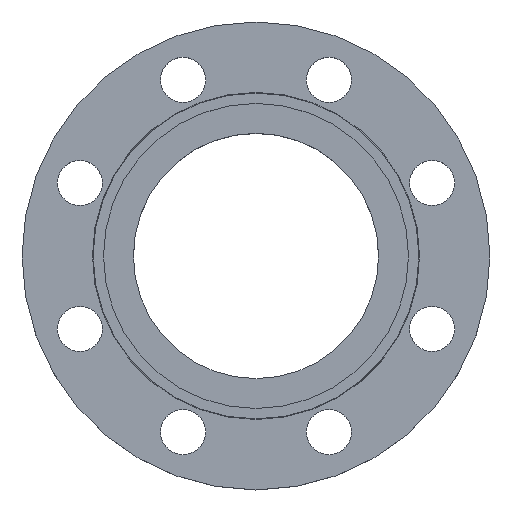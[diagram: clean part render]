
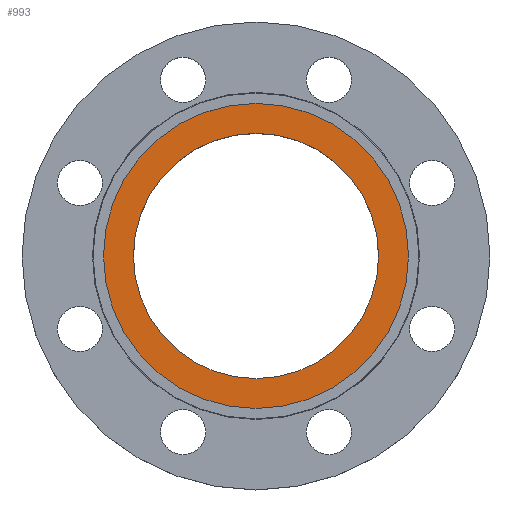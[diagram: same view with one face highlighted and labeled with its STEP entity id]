
A CAD part, top view. The second image highlights one B-rep face of the part: STEP entity #993.
In plain terms, the highlighted planar face has unit normal (0, 0, 1).
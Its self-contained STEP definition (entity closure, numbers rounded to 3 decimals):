
#39 = DIRECTION ( 'NONE',  ( 1., 0., 0. ) ) ;
#41 = DIRECTION ( 'NONE',  ( 0., 0., 1. ) ) ;
#42 = CARTESIAN_POINT ( 'NONE',  ( 88., 0., -4.5 ) ) ;
#44 = PLANE ( 'NONE',  #88 ) ;
#45 = FACE_OUTER_BOUND ( 'NONE', #683, .T. ) ;
#46 = FACE_BOUND ( 'NONE', #879, .T. ) ;
#88 = AXIS2_PLACEMENT_3D ( 'NONE', #42, #41, #39 ) ;
#102 = DIRECTION ( 'NONE',  ( -1., 0., 0. ) ) ;
#103 = DIRECTION ( 'NONE',  ( 0., 0., -1. ) ) ;
#104 = CARTESIAN_POINT ( 'NONE',  ( 0., 0., -4.5 ) ) ;
#105 = CARTESIAN_POINT ( 'NONE',  ( 88., 0., -4.5 ) ) ;
#108 = DIRECTION ( 'NONE',  ( 1., 0., 0. ) ) ;
#109 = DIRECTION ( 'NONE',  ( 0., 0., 1. ) ) ;
#110 = CARTESIAN_POINT ( 'NONE',  ( 0., 0., -4.5 ) ) ;
#132 = CARTESIAN_POINT ( 'NONE',  ( -70.75, 0., -4.5 ) ) ;
#196 = DIRECTION ( 'NONE',  ( 1., 0., 0. ) ) ;
#197 = DIRECTION ( 'NONE',  ( 0., 0., 1. ) ) ;
#198 = CARTESIAN_POINT ( 'NONE',  ( 0., 0., -4.5 ) ) ;
#309 = AXIS2_PLACEMENT_3D ( 'NONE', #110, #109, #108 ) ;
#310 = CIRCLE ( 'NONE', #311, 88. ) ;
#311 = AXIS2_PLACEMENT_3D ( 'NONE', #104, #103, #102 ) ;
#324 = CARTESIAN_POINT ( 'NONE',  ( -88., 0., -4.5 ) ) ;
#346 = CIRCLE ( 'NONE', #309, 70.75 ) ;
#354 = CARTESIAN_POINT ( 'NONE',  ( 70.75, 0., -4.5 ) ) ;
#499 = DIRECTION ( 'NONE',  ( 0., 0., -1. ) ) ;
#500 = DIRECTION ( 'NONE',  ( -1., 0., 0. ) ) ;
#503 = CARTESIAN_POINT ( 'NONE',  ( 0., 0., -4.5 ) ) ;
#516 = EDGE_CURVE ( 'NONE', #889, #690, #584, .T. ) ;
#584 = CIRCLE ( 'NONE', #589, 88. ) ;
#589 = AXIS2_PLACEMENT_3D ( 'NONE', #503, #499, #500 ) ;
#601 = CIRCLE ( 'NONE', #604, 70.75 ) ;
#604 = AXIS2_PLACEMENT_3D ( 'NONE', #198, #197, #196 ) ;
#639 = VERTEX_POINT ( 'NONE', #354 ) ;
#683 = EDGE_LOOP ( 'NONE', ( #1007, #1008 ) ) ;
#690 = VERTEX_POINT ( 'NONE', #324 ) ;
#848 = EDGE_CURVE ( 'NONE', #869, #639, #601, .T. ) ;
#869 = VERTEX_POINT ( 'NONE', #132 ) ;
#879 = EDGE_LOOP ( 'NONE', ( #1005, #1006 ) ) ;
#887 = EDGE_CURVE ( 'NONE', #639, #869, #346, .T. ) ;
#889 = VERTEX_POINT ( 'NONE', #105 ) ;
#891 = EDGE_CURVE ( 'NONE', #690, #889, #310, .T. ) ;
#993 = ADVANCED_FACE ( 'NONE', ( #46, #45 ), #44, .T. ) ;
#1005 = ORIENTED_EDGE ( 'NONE', *, *, #887, .F. ) ;
#1006 = ORIENTED_EDGE ( 'NONE', *, *, #848, .F. ) ;
#1007 = ORIENTED_EDGE ( 'NONE', *, *, #891, .F. ) ;
#1008 = ORIENTED_EDGE ( 'NONE', *, *, #516, .F. ) ;
